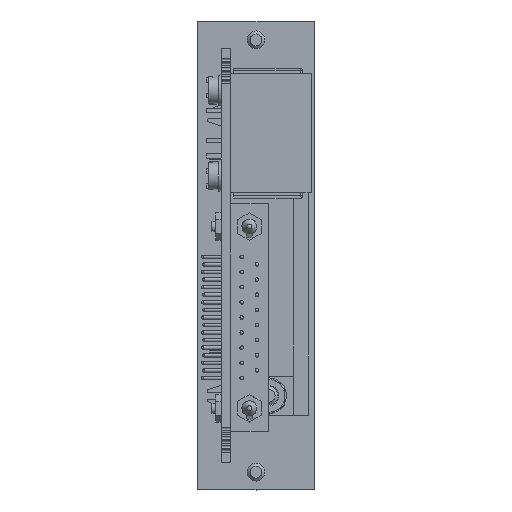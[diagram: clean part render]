
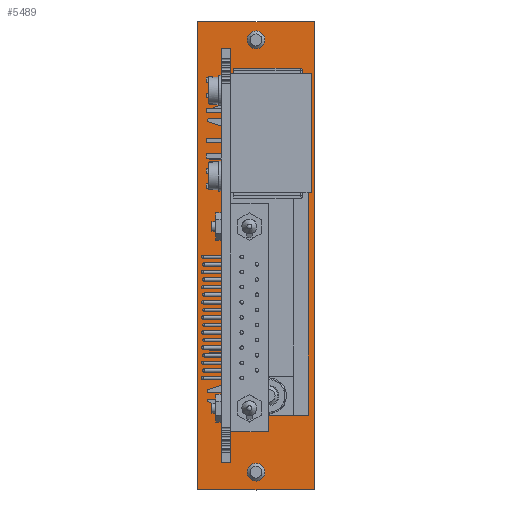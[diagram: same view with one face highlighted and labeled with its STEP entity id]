
A CAD part, front view. The second image highlights one B-rep face of the part: STEP entity #5489.
In plain terms, the highlighted planar face has unit normal (0, -1, 0).
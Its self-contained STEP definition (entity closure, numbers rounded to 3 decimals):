
#5489=ADVANCED_FACE('',(#16797,#16799,#16801,#16803),#16805,.F.);
#16797=FACE_BOUND('',#16798,.T.);
#16798=EDGE_LOOP('',(#26297,#26298,#26299,#26300));
#16799=FACE_BOUND('',#16800,.T.);
#16800=EDGE_LOOP('',(#26301,#26302,#26303,#26304));
#16801=FACE_BOUND('',#16802,.T.);
#16802=EDGE_LOOP('',(#26305));
#16803=FACE_BOUND('',#16804,.T.);
#16804=EDGE_LOOP('',(#26306));
#16805=PLANE('',#16806);
#16806=AXIS2_PLACEMENT_3D('',#16807,#16808,#16809);
#16807=CARTESIAN_POINT('',(0.,0.,0.));
#16808=DIRECTION('',(0.,1.,0.));
#16809=DIRECTION('',(-1.,0.,0.));
#26297=ORIENTED_EDGE('',*,*,#31082,.F.);
#26298=ORIENTED_EDGE('',*,*,#31090,.F.);
#26299=ORIENTED_EDGE('',*,*,#31087,.F.);
#26300=ORIENTED_EDGE('',*,*,#31085,.F.);
#26301=ORIENTED_EDGE('',*,*,#32227,.F.);
#26302=ORIENTED_EDGE('',*,*,#32228,.F.);
#26303=ORIENTED_EDGE('',*,*,#32229,.F.);
#26304=ORIENTED_EDGE('',*,*,#32230,.F.);
#26305=ORIENTED_EDGE('',*,*,#32231,.T.);
#26306=ORIENTED_EDGE('',*,*,#32232,.T.);
#31082=EDGE_CURVE('',#35298,#35299,#35300,.T.);
#31085=EDGE_CURVE('',#35299,#35303,#35304,.T.);
#31087=EDGE_CURVE('',#35303,#35306,#35307,.T.);
#31090=EDGE_CURVE('',#35306,#35298,#35311,.T.);
#32227=EDGE_CURVE('',#37023,#37024,#37025,.F.);
#32228=EDGE_CURVE('',#37026,#37023,#37027,.F.);
#32229=EDGE_CURVE('',#37028,#37026,#37029,.F.);
#32230=EDGE_CURVE('',#37024,#37028,#37030,.F.);
#32231=EDGE_CURVE('',#37031,#37031,#37032,.F.);
#32232=EDGE_CURVE('',#37033,#37033,#37034,.F.);
#35298=VERTEX_POINT('',#43154);
#35299=VERTEX_POINT('',#43155);
#35300=LINE('',#43156,#43157);
#35303=VERTEX_POINT('',#43165);
#35304=LINE('',#43166,#43167);
#35306=VERTEX_POINT('',#43172);
#35307=LINE('',#43173,#43174);
#35311=LINE('',#43184,#43185);
#37023=VERTEX_POINT('',#47566);
#37024=VERTEX_POINT('',#47567);
#37025=LINE('',#47568,#47569);
#37026=VERTEX_POINT('',#47571);
#37027=LINE('',#47572,#47573);
#37028=VERTEX_POINT('',#47575);
#37029=LINE('',#47576,#47577);
#37030=LINE('',#47579,#47580);
#37031=VERTEX_POINT('',#47582);
#37032=CIRCLE('',#47583,1.229);
#37033=VERTEX_POINT('',#47587);
#37034=CIRCLE('',#47588,1.229);
#43154=CARTESIAN_POINT('',(0.,0.,0.));
#43155=CARTESIAN_POINT('',(-19.6,0.,0.));
#43156=CARTESIAN_POINT('',(0.,0.,0.));
#43157=VECTOR('',#43158,1.);
#43158=DIRECTION('',(-1.,0.,0.));
#43165=CARTESIAN_POINT('',(-19.6,0.,78.5));
#43166=CARTESIAN_POINT('',(-19.6,0.,0.));
#43167=VECTOR('',#43168,1.);
#43168=DIRECTION('',(0.,0.,1.));
#43172=CARTESIAN_POINT('',(0.,0.,78.5));
#43173=CARTESIAN_POINT('',(-19.6,0.,78.5));
#43174=VECTOR('',#43175,1.);
#43175=DIRECTION('',(1.,0.,0.));
#43184=CARTESIAN_POINT('',(0.,0.,78.5));
#43185=VECTOR('',#43186,1.);
#43186=DIRECTION('',(0.,0.,-1.));
#47566=CARTESIAN_POINT('',(-14.,0.,66.05));
#47567=CARTESIAN_POINT('',(-14.,0.,12.55));
#47568=CARTESIAN_POINT('',(-14.,0.,12.55));
#47569=VECTOR('',#47570,1.);
#47570=DIRECTION('',(0.,0.,1.));
#47571=CARTESIAN_POINT('',(-1.07,0.,66.05));
#47572=CARTESIAN_POINT('',(-14.,0.,66.05));
#47573=VECTOR('',#47574,1.);
#47574=DIRECTION('',(1.,0.,0.));
#47575=CARTESIAN_POINT('',(-1.07,0.,12.55));
#47576=CARTESIAN_POINT('',(-1.07,0.,66.05));
#47577=VECTOR('',#47578,1.);
#47578=DIRECTION('',(0.,0.,-1.));
#47579=CARTESIAN_POINT('',(-1.07,0.,12.55));
#47580=VECTOR('',#47581,1.);
#47581=DIRECTION('',(-1.,0.,0.));
#47582=CARTESIAN_POINT('',(-8.571,0.,3.));
#47583=AXIS2_PLACEMENT_3D('',#47584,#47585,#47586);
#47584=CARTESIAN_POINT('',(-9.8,0.,3.));
#47585=DIRECTION('',(0.,-1.,0.));
#47586=DIRECTION('',(1.,0.,0.));
#47587=CARTESIAN_POINT('',(-8.571,0.,75.5));
#47588=AXIS2_PLACEMENT_3D('',#47589,#47590,#47591);
#47589=CARTESIAN_POINT('',(-9.8,0.,75.5));
#47590=DIRECTION('',(0.,-1.,0.));
#47591=DIRECTION('',(1.,0.,0.));
